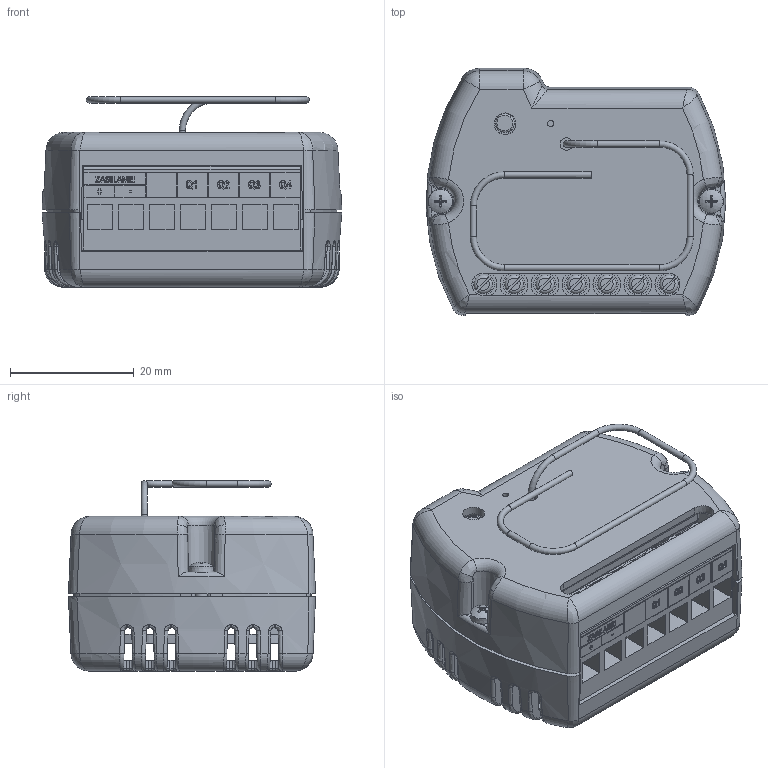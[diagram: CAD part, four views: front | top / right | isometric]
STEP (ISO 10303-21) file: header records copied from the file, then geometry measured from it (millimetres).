
FILE_DESCRIPTION(/* description */ (''),/* implementation_level */ '2;1');
FILE_NAME(/* name */ 'DIM-P4.step',/* time_stamp */ '2026-02-06T13:16:43+01:00',/* author */ (''),/* organization */ (''),/* preprocessor_version */ 'ST-DEVELOPER v20.1',/* originating_system */ 'Autodesk Translation Framework v14.24.0.0',/* authorisation */ '');
FILE_SCHEMA (('AUTOMOTIVE_DESIGN { 1 0 10303 214 3 1 1 }'));
Products named in the file (13): Przekaźnik do puszki1; Plytka dolna1; Łaczka; SWITCH 6X6X3,2; Gora_cewka3; Spod_cewka3; ST-1011_2_1_E; Antenka 1011; S_023.05.000.00006 ocynk; Komponent131; Komponent132; Komponent133; Komponent134
Assembly tree (13 placements, depth 2):
  Przekaźnik do puszki1
    Plytka dolna1
    Łaczka
    SWITCH 6X6X3,2
    Gora_cewka3
    Spod_cewka3
    ST-1011_2_1_E
    S_023.05.000.00006 ocynk  x2
    Antenka 1011
    Komponent131
    Komponent132
    Komponent133
    Komponent134
Bounding box: 48.38 x 39.9 x 30.74 mm (x, y, z)
Volume: 16193.3 mm3; surface area: 19441.2 mm2
Topology: 24 solids, 24 shells, 1966 faces, 5324 edges, 3457 vertices
Faces by surface type: plane 1244, bspline 335, cylinder 141, torus 121, cone 119, sphere 6
Full cylindrical faces by diameter (mm): 1 x13, 2.2 x2, 3.1 x1, 3.5 x1, 3.6 x7, 4.5 x7
Entity records: 69575 total; most frequent: CARTESIAN_POINT 22213, ORIENTED_EDGE 10458, DIRECTION 8509, EDGE_CURVE 5229, LINE 3617, VECTOR 3617, VERTEX_POINT 3409, AXIS2_PLACEMENT_3D 2446
